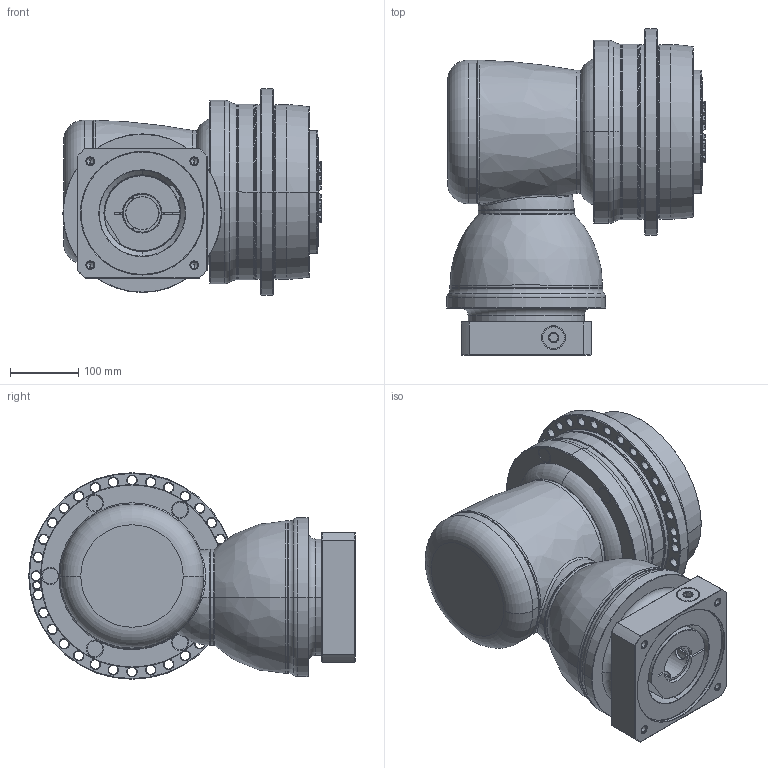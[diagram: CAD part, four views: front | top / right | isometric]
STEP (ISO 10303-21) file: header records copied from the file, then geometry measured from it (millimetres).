
FILE_DESCRIPTION((''),'2;1');
FILE_NAME('APCK255_2ST_48-P0409B10201_ASM','2018-05-10T',('d01226'),(''),'PRO/ENGINEER BY PARAMETRIC TECHNOLOGY CORPORATION, 2008410','PRO/ENGINEER BY PARAMETRIC TECHNOLOGY CORPORATION, 2008410','');
FILE_SCHEMA(('CONFIG_CONTROL_DESIGN'));
Length unit declared in the file: millimetre
Products named in the file (13): P1008600002; P1802710001; P0278701003; P0359770103; P1211700001; P1315600001; P1007601001; P1318610401; P0409B10201; P0503B00016; P0912654001; 21711426021; APCK255_2ST_48-P0409B10201_ASM
Assembly tree (12 placements, depth 2):
  APCK255_2ST_48-P0409B10201_ASM
    P1008600002
    P1802710001
    P0278701003
    P0359770103
    P1211700001
    P1315600001
    P1007601001
    P1318610401
    P0409B10201
    P0503B00016
    P0912654001
    21711426021
Bounding box: 377.6 x 477.5 x 302 mm (x, y, z)
Volume: 21982304.3 mm3; surface area: 1426383.7 mm2
Topology: 13 solids, 25 shells, 859 faces, 2070 edges, 1269 vertices
Faces by surface type: cone 276, cylinder 272, plane 153, torus 125, bspline 31, sphere 2
Entity records: 32609 total; most frequent: CARTESIAN_POINT 11944, DIRECTION 4645, ORIENTED_EDGE 4062, EDGE_CURVE 2056, AXIS2_PLACEMENT_3D 2036, VERTEX_POINT 1269, CIRCLE 1171, EDGE_LOOP 989
